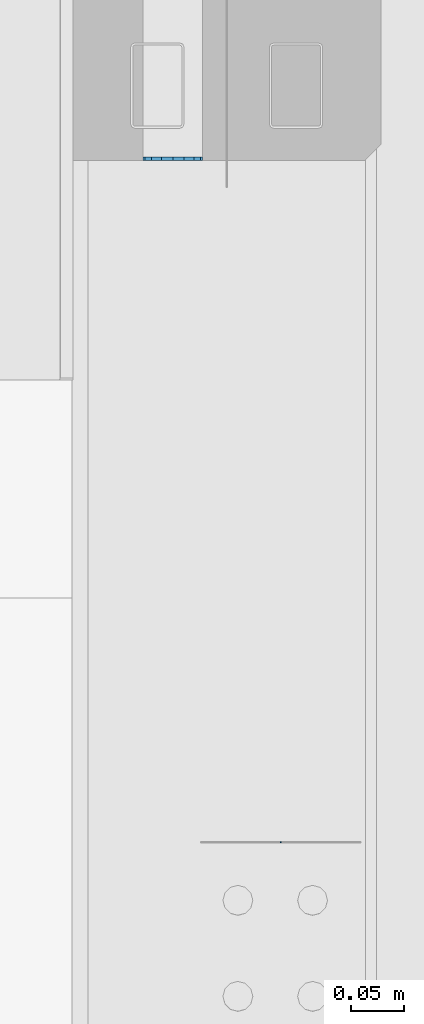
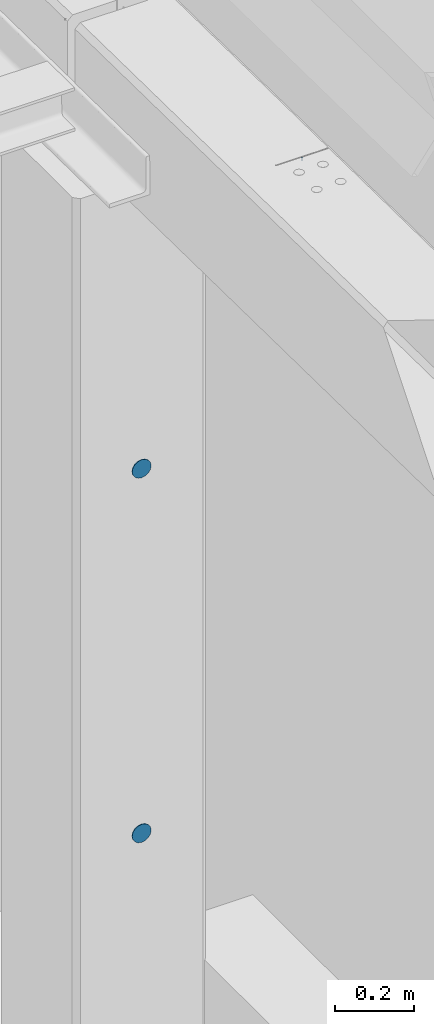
# One storey, part 83 of 186: 3 beams.
"""IFC4X3_ADD2 building model written with IfcOpenShell, lengths in millimetres."""

from ifc_helpers import new_model, si_unit, direction, frame, frame_2d, origin_with_axes, place, context, subcontext, project, spatial, indexed_curve, rectangle, outline, extrude, material, element, save


model = new_model("IFC4X3_ADD2")

# Units and contexts
model_context = context("Model", 3, precision=1e-05, world=origin_with_axes(), true_north=direction((0.0, 1.0)))
body_context = subcontext(model_context, "Body", "Model", "MODEL_VIEW")
ifc_project = project(units=[si_unit("LENGTHUNIT", "METRE", prefix="MILLI"), si_unit("AREAUNIT", "SQUARE_METRE"), si_unit("VOLUMEUNIT", "CUBIC_METRE"), si_unit("PLANEANGLEUNIT", "RADIAN"), si_unit("TIMEUNIT", "SECOND"), si_unit("MASSUNIT", "GRAM")], contexts=[model_context])

# Site, building, storey
site_placement = place(None, origin_with_axes())
site = spatial("IfcSite", under=ifc_project, at=site_placement, Name="Site", CompositionType="ELEMENT")
building_placement = place(site_placement, origin_with_axes())
building = spatial("IfcBuilding", under=site, at=building_placement, Name="IFC Building Story")
storey_placement = place(building_placement, frame((0.0, 0.0, 4370.0), z_axis=(0.0, 0.0, 1.0), x_axis=(1.0, 0.0, 0.0)))
storey = spatial("IfcBuildingStorey", under=building, at=storey_placement, Name="ETAGE 10 (1)", Elevation=4370.0)

# Beams
ifc_material_1 = material(Name="STEEL/Accessory_invisible")
beam_placement = place(storey_placement, frame((48412.192835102, -8869.043411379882, 3282.565220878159), z_axis=(-1.0, 0.0, 0.0), x_axis=(0.0, 0.01500926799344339, 0.9998873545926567)))
element("IfcBeam", 1, at=beam_placement, inside=storey, material=ifc_material_1, Name="ZW1", ObjectType="1*1 12", context=body_context, shape_type="SweptSolid", body=[
    extrude(rectangle(XDim=10.0, YDim=1.00000000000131, at=frame_2d((0.0, 5.95523630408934e-12), x_axis=(1.0, 0.0))), origin_with_axes(), (0.0, 0.0, 1.0), 1.0),
])
ifc_material_2 = material(Name="STEEL/Accessory 22919")
for number, where, z_axis, x_axis, name in (
    (2, (48310.686, -8227.0, 840.0), (0.0, -1.0, 0.0), (-0.1950903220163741, 0.0, 0.9807852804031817), "TA4"),
    (3, (48310.686, -8227.0, 1970.000000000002), (0.0, -1.0, 0.0), (-0.1950903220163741, 0.0, 0.9807852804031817), "TA4"),
):
    element("IfcBeam", number, at=place(storey_placement, frame(where, z_axis=z_axis, x_axis=x_axis)), inside=storey, material=ifc_material_2, Name=name, ObjectType="D56", context=body_context, shape_type="SweptSolid", body=[
        extrude(outline(indexed_curve([(23.28114914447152, 15.55596652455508), (27.46198785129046, 5.462529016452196), (27.46198785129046, -5.462529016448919), (23.28114914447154, -15.55596652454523), (15.55596652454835, -23.28114914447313), (5.462529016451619, -27.46198785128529), (-5.462529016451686, -27.46198785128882), (-15.55596652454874, -23.28114914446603), (-23.2811491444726, -15.55596652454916), (-27.46198785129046, -5.462529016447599), (-27.46198785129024, 5.462529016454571), (-23.28114914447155, 15.55596652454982), (-15.55596652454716, 23.28114914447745), (-5.462529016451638, 27.46198785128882), (5.462529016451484, 27.46198785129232), (15.55596652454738, 23.28114914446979), (23.28114914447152, 15.55596652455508)])), origin_with_axes(), (0.0, 0.0, 1.0), 3.0),
    ])

save(model, "model.ifc")
